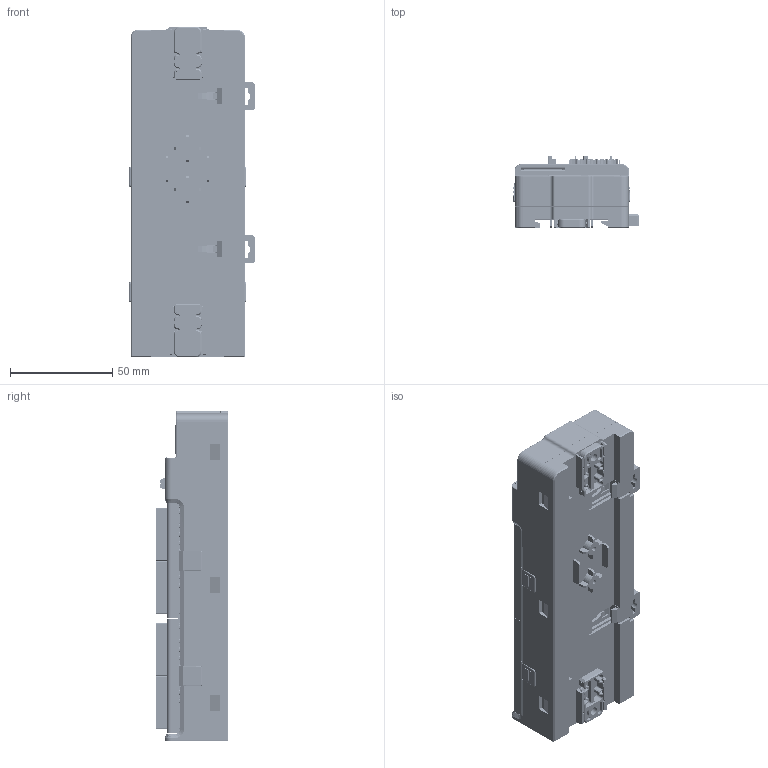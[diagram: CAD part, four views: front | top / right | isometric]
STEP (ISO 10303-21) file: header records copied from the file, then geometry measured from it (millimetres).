
FILE_DESCRIPTION(/* description */ (''),/* implementation_level */ '2;1');
FILE_NAME(/* name */ 'G2-FS-长款-3位ECON.stp',/* time_stamp */ '2022-12-03T11:33:23+08:00',/* author */ (''),/* organization */ (''),/* preprocessor_version */ 'ST-DEVELOPER v16',/* originating_system */ 'SIEMENS PLM Software NX 10.0',/* authorisation */ '');
FILE_SCHEMA (('AP203_CONFIGURATION_CONTROLLED_3D_DESIGN_OF_MECHANICAL_PARTS_AND_ASSEMBLIES_MIM_LF { 1 0 10303 403 2 1 2}'));
Products named in the file (1): 7349352C1CB7ak23
Bounding box: 61.81 x 35.23 x 162 mm (x, y, z)
Volume: 221379.8 mm3; surface area: 130830.9 mm2
Topology: 61 solids, 208 shells, 15652 faces, 41209 edges, 26550 vertices
Faces by surface type: plane 12201, cylinder 2161, cone 561, bspline 479, torus 140, extrusion 84, sphere 22, revolution 4
Full cylindrical faces by diameter (mm): 0.6 x4, 0.76 x6, 0.8 x13, 0.9 x1, 0.92 x18, 1 x5, 1.1 x2, 1.2 x25, 1.24 x16, 1.26 x3, 1.36 x24, 1.5 x5, 1.64 x20, 1.7 x4, 2.35 x2, 3.2 x3, 3.3 x3, 4.2 x2, 6.05 x3, 6.15 x3
Entity records: 490755 total; most frequent: CARTESIAN_POINT 106611, ORIENTED_EDGE 81278, DIRECTION 75004, EDGE_CURVE 40719, VECTOR 33468, LINE 33384, VERTEX_POINT 26480, AXIS2_PLACEMENT_3D 20766
